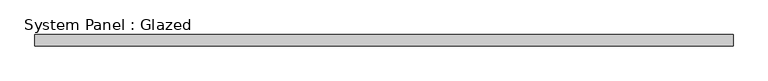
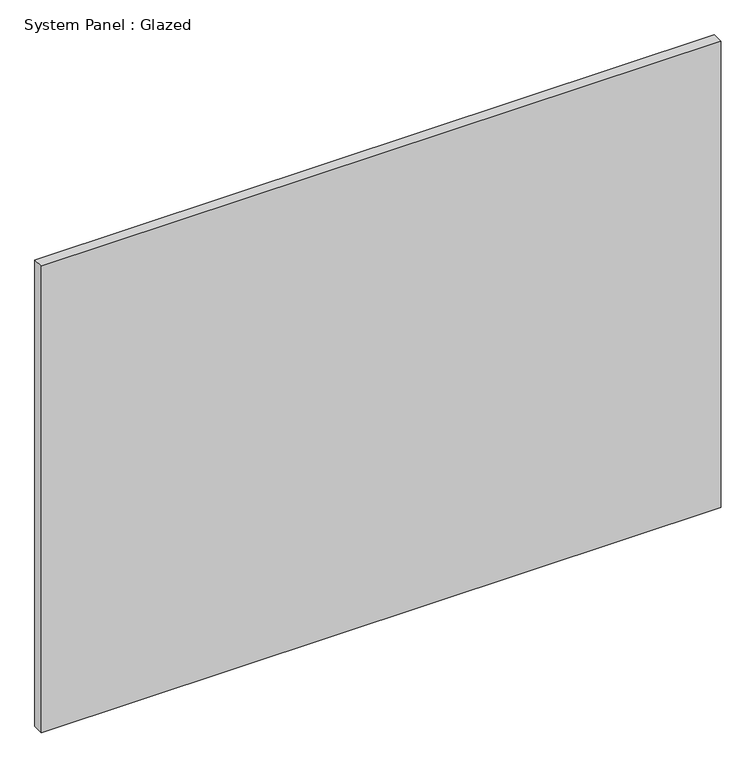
"""IFC4 building model written with IfcOpenShell, lengths in millimetres: plate geometry, System Panel : Glazed."""

from ifc_helpers import new_model, si_unit, origin, origin_with_axes, place, context, project, spatial, polyline, outline, extrude, source, transform, mapped, element, save


def system_panel_glazed_2f1fb611(model_context):
    return source(origin(), model_context, "Body", "SweptSolid", [
        extrude(outline(polyline([(774.7, -44.45), (-774.7, -44.45), (-774.7, -19.05), (774.7, -19.05), (774.7, -44.45)])), origin_with_axes(), (0.0, 0.0, 1.0), 1123.95),
    ])


if __name__ == "__main__":
    model = new_model("IFC4")
    model_context = context("Model", 3, world=origin())
    ifc_project = project(units=[si_unit("LENGTHUNIT", "METRE", prefix="MILLI")], contexts=[model_context])
    site = spatial("IfcSite", under=ifc_project)
    building = spatial("IfcBuilding", under=site)
    placement = place(None, origin())
    system_panel_glazed_shape = system_panel_glazed_2f1fb611(model_context)
    element("IfcPlate", 1, ObjectType="System Panel : Glazed", at=placement, inside=building, context=model_context, shape_type="MappedRepresentation", body=[
        mapped(system_panel_glazed_shape, transform((0.0, 0.0, 0.0), x_axis=(1.0, 0.0, 0.0), y_axis=(0.0, 1.0, 0.0), z_axis=(0.0, 0.0, 1.0))),
    ])
    save(model, "model.ifc")
